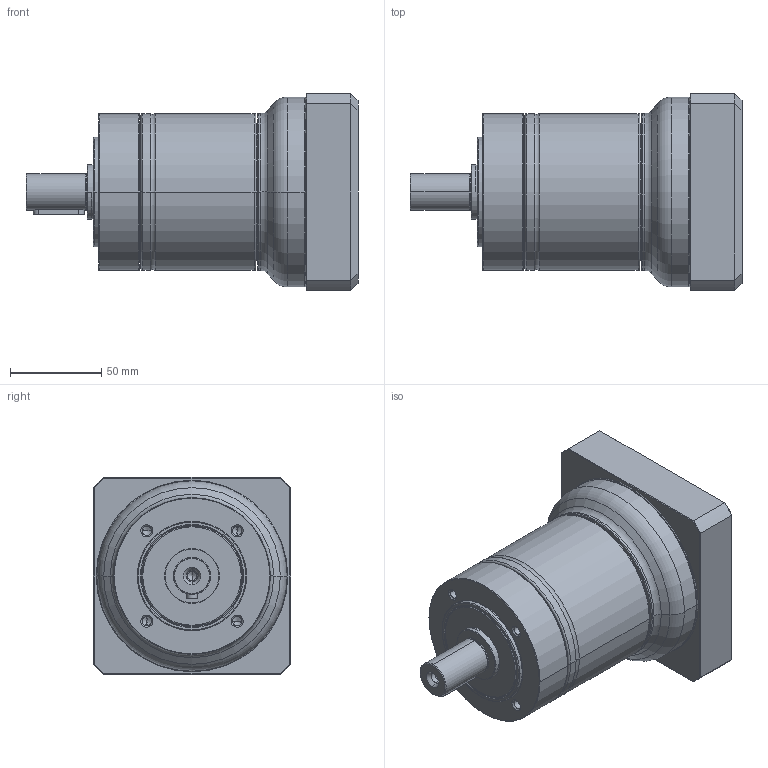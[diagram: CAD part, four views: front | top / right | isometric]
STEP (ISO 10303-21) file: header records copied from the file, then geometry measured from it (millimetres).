
FILE_DESCRIPTION((''),'2;1');
FILE_NAME('PG2-080_2ST_28-P0411600101_ASM','2016-04-13T',('d01943'),(''),'PRO/ENGINEER BY PARAMETRIC TECHNOLOGY CORPORATION, 2008410','PRO/ENGINEER BY PARAMETRIC TECHNOLOGY CORPORATION, 2008410','');
FILE_SCHEMA(('CONFIG_CONTROL_DESIGN'));
Length unit declared in the file: millimetre
Products named in the file (9): P1325310001; P0251300001; P1324300301; P0350301103; P0941303001; P0503600008; P0411600101; P1702500001; PG2-080_2ST_28-P0411600101_ASM
Assembly tree (8 placements, depth 2):
  PG2-080_2ST_28-P0411600101_ASM
    P1325310001
    P0251300001
    P1324300301
    P0350301103
    P0941303001
    P0503600008
    P0411600101
    P1702500001
Bounding box: 182 x 108 x 108 mm (x, y, z)
Volume: 695728.1 mm3; surface area: 165382.9 mm2
Topology: 8 solids, 9 shells, 475 faces, 1045 edges, 601 vertices
Faces by surface type: cone 142, cylinder 139, torus 98, plane 80, bspline 16
Entity records: 17636 total; most frequent: CARTESIAN_POINT 6951, DIRECTION 2437, ORIENTED_EDGE 2022, AXIS2_PLACEMENT_3D 1045, EDGE_CURVE 1011, VERTEX_POINT 601, CIRCLE 569, EDGE_LOOP 540
